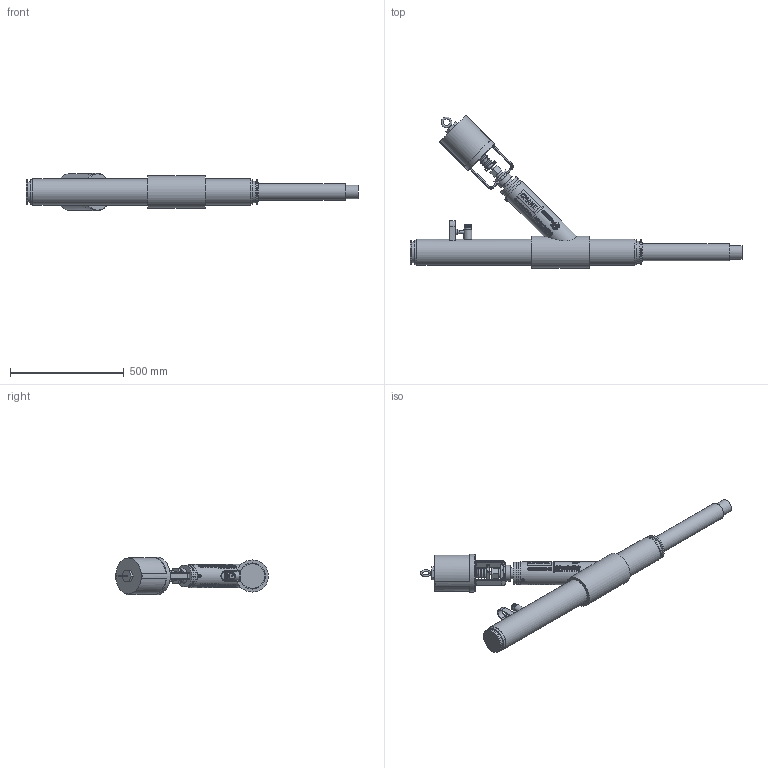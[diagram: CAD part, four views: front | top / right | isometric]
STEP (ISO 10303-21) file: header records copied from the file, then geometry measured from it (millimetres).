
FILE_DESCRIPTION (( 'STEP AP203' ), '1' );
FILE_NAME ('CA02501 CryoWorks High Flow Phase Separator Vent Valve REV A.STEP', '2026-02-06T22:03:26', ( '' ), ( '' ), 'SwSTEP 2.0', 'SolidWorks 2023', '' );
FILE_SCHEMA (( 'CONFIG_CONTROL_DESIGN' ));
Length unit declared in the file: inch
Products named in the file (1): CA02501 CryoWorks High Flow Phase Separator Vent Valve REV A
Bounding box: 1456.69 x 670.66 x 165.1 mm (x, y, z)
Volume: 20267542.8 mm3; surface area: 872822.4 mm2
Topology: 1 solids, 2 shells, 1376 faces, 3468 edges, 2285 vertices
Faces by surface type: plane 843, cylinder 367, bspline 105, cone 33, torus 28
Full cylindrical faces by diameter (mm): 1.494 x2, 1.636 x2, 1.778 x2, 1.935 x4, 2.039 x2, 2.302 x2, 2.967 x2, 3.409 x2, 3.807 x2, 4.009 x2, 4.573 x2, 6.177 x2, 6.429 x1, 7.63 x2, 7.722 x1, 8.715 x1, 9.232 x2, 9.525 x2, 10.236 x1, 10.749 x2, 11.125 x2, 12.7 x1, 24.638 x1, 26.873 x1, 29.972 x2, 30.988 x1, 34.925 x1, 38.1 x1, 49.53 x1, 59.436 x1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
Entity records: 58556 total; most frequent: CARTESIAN_POINT 28370, ORIENTED_EDGE 6660, DIRECTION 5366, EDGE_CURVE 3330, VERTEX_POINT 2263, AXIS2_PLACEMENT_3D 1810, LINE 1746, VECTOR 1746
